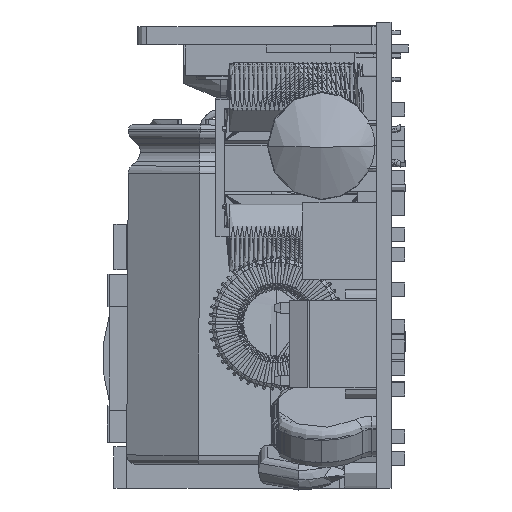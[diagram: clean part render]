
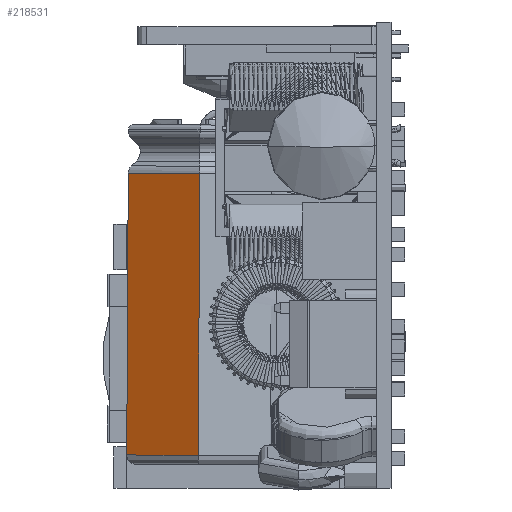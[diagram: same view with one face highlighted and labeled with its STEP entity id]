
A CAD part, left-side view. The second image highlights one B-rep face of the part: STEP entity #218531.
In plain terms, the highlighted cylindrical face has radius 9 mm (diameter 18 mm), a partial arc.
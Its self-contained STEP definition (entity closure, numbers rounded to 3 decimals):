
#26511 = VERTEX_POINT ( 'NONE', #42493 ) ;
#29154 = DIRECTION ( 'NONE',  ( 0., 0., 1. ) ) ;
#33613 = DIRECTION ( 'NONE',  ( -1., 0., 0. ) ) ;
#36813 = DIRECTION ( 'NONE',  ( 1., 0., 0. ) ) ;
#40775 = AXIS2_PLACEMENT_3D ( 'NONE', #63419, #45779, #166050 ) ;
#42493 = CARTESIAN_POINT ( 'NONE',  ( -9., 0., -36. ) ) ;
#45779 = DIRECTION ( 'NONE',  ( 0., 0., -1. ) ) ;
#53374 = CIRCLE ( 'NONE', #177421, 9. ) ;
#54472 = EDGE_CURVE ( 'NONE', #26511, #72012, #68487, .T. ) ;
#60165 = CARTESIAN_POINT ( 'NONE',  ( 0., 0., -29.5 ) ) ;
#63419 = CARTESIAN_POINT ( 'NONE',  ( 0., 0., -5.281 ) ) ;
#64320 = AXIS2_PLACEMENT_3D ( 'NONE', #60165, #29154, #36813 ) ;
#65411 = CARTESIAN_POINT ( 'NONE',  ( 9., 0., -36. ) ) ;
#68487 = LINE ( 'NONE', #182990, #302730 ) ;
#72012 = VERTEX_POINT ( 'NONE', #282830 ) ;
#89907 = DIRECTION ( 'NONE',  ( 0., 0., 1. ) ) ;
#94996 = FACE_OUTER_BOUND ( 'NONE', #213743, .T. ) ;
#126365 = ORIENTED_EDGE ( 'NONE', *, *, #54472, .T. ) ;
#135390 = CARTESIAN_POINT ( 'NONE',  ( 9., 0., -29.5 ) ) ;
#146195 = CARTESIAN_POINT ( 'NONE',  ( 0., 0., -36. ) ) ;
#151367 = VERTEX_POINT ( 'NONE', #263094 ) ;
#166050 = DIRECTION ( 'NONE',  ( -1., 0., 0. ) ) ;
#170242 = DIRECTION ( 'NONE',  ( 0., 0., 1. ) ) ;
#171983 = ORIENTED_EDGE ( 'NONE', *, *, #315884, .T. ) ;
#177421 = AXIS2_PLACEMENT_3D ( 'NONE', #146195, #89907, #33613 ) ;
#182990 = CARTESIAN_POINT ( 'NONE',  ( -9., 0., -29.5 ) ) ;
#184239 = CYLINDRICAL_SURFACE ( 'NONE', #64320, 9. ) ;
#186670 = VECTOR ( 'NONE', #170242, 1000. ) ;
#186828 = DIRECTION ( 'NONE',  ( 0., 0., 1. ) ) ;
#213743 = EDGE_LOOP ( 'NONE', ( #171983, #126365, #309068, #331988 ) ) ;
#218531 = ADVANCED_FACE ( 'NONE', ( #94996 ), #184239, .T. ) ;
#225642 = EDGE_CURVE ( 'NONE', #72012, #151367, #276303, .T. ) ;
#229812 = VERTEX_POINT ( 'NONE', #65411 ) ;
#263094 = CARTESIAN_POINT ( 'NONE',  ( 9., 0., -5.281 ) ) ;
#276303 = CIRCLE ( 'NONE', #40775, 9. ) ;
#282830 = CARTESIAN_POINT ( 'NONE',  ( -9., 0., -5.281 ) ) ;
#283001 = LINE ( 'NONE', #135390, #186670 ) ;
#284418 = EDGE_CURVE ( 'NONE', #229812, #151367, #283001, .T. ) ;
#302730 = VECTOR ( 'NONE', #186828, 1000. ) ;
#309068 = ORIENTED_EDGE ( 'NONE', *, *, #225642, .T. ) ;
#315884 = EDGE_CURVE ( 'NONE', #229812, #26511, #53374, .T. ) ;
#331988 = ORIENTED_EDGE ( 'NONE', *, *, #284418, .F. ) ;
